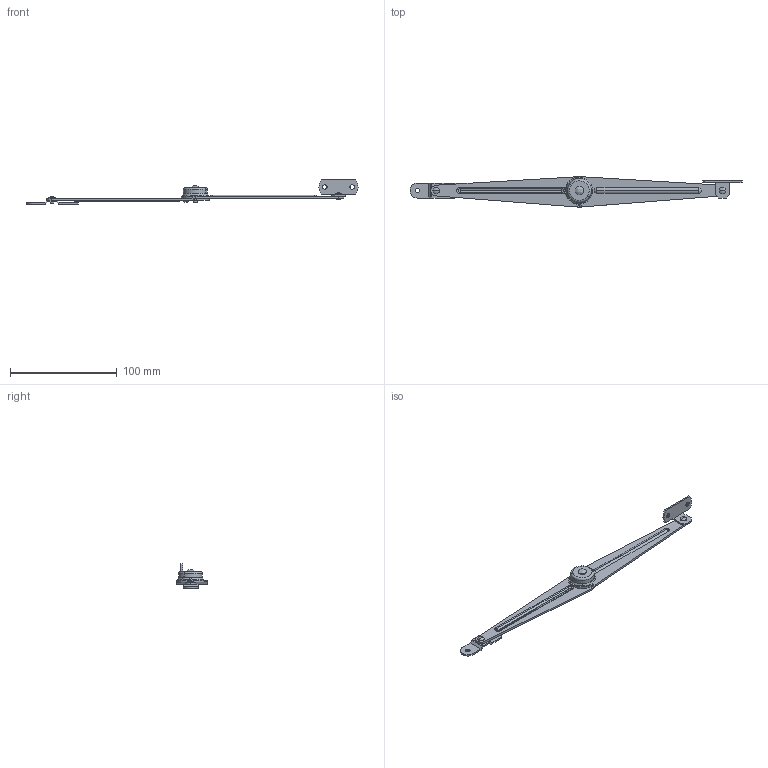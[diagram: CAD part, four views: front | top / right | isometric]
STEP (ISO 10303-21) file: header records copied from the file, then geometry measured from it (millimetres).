
FILE_DESCRIPTION (( 'STEP AP203' ), '1' );
FILE_NAME ('3SJ.TX90-1-Z.0001.STEP', '2020-03-13T08:20:20', ( 'China' ), ( 'User' ), 'SwSTEP 2.0', 'SolidWorks 2018', '' );
FILE_SCHEMA (( 'CONFIG_CONTROL_DESIGN' ));
Length unit declared in the file: millimetre
Products named in the file (10): 8SJ.TX90-1.0710; 8SJ.TX90-1.0582; 8SJ.TX90-1.0500; 3SJ.TX90-1-Z.0001; 8SJ.TX90-1.0281; 8SJ.TX90-1.0280; 8SJ.TX91-1.0371; 8SJ.TX90-1.0370; 8SJ.TX90-1.0580; 8SJ.TX90-1.0250
Assembly tree (10 placements, depth 2):
  3SJ.TX90-1-Z.0001
    8SJ.TX90-1.0500
    8SJ.TX90-1.0281
    8SJ.TX90-1.0280
    8SJ.TX91-1.0371
    8SJ.TX90-1.0370
    8SJ.TX90-1.0580
    8SJ.TX90-1.0250
    8SJ.TX90-1.0710
    8SJ.TX90-1.0582  x2
Bounding box: 310.75 x 28.68 x 23.3 mm (x, y, z)
Volume: 15093.2 mm3; surface area: 19796.9 mm2
Topology: 10 solids, 10 shells, 187 faces, 442 edges, 281 vertices
Faces by surface type: cylinder 76, plane 64, bspline 19, cone 16, torus 8, sphere 4
Entity records: 9747 total; most frequent: CARTESIAN_POINT 4514, DIRECTION 920, ORIENTED_EDGE 828, EDGE_CURVE 414, AXIS2_PLACEMENT_3D 365, VERTEX_POINT 267, EDGE_LOOP 211, CIRCLE 196
